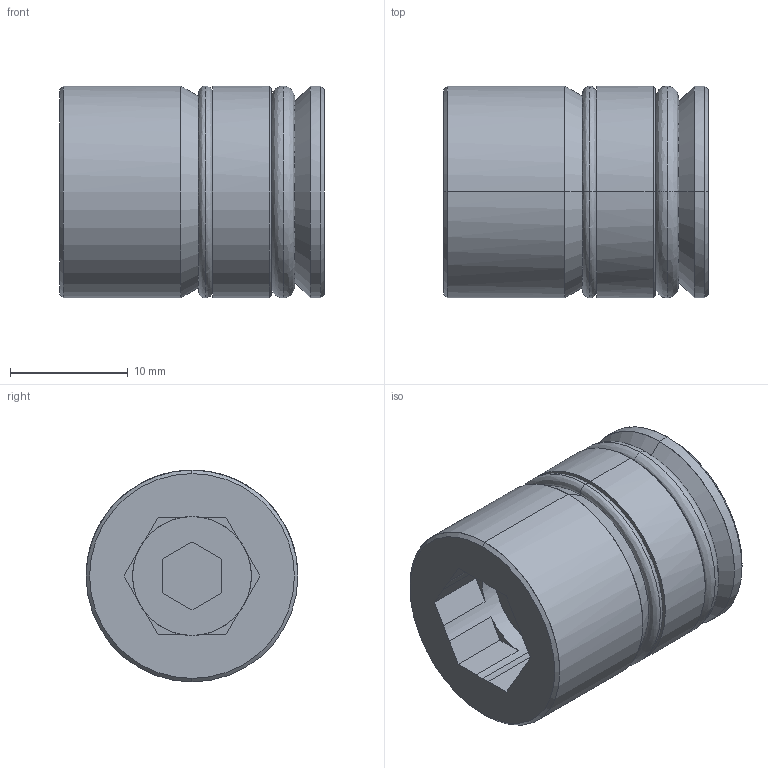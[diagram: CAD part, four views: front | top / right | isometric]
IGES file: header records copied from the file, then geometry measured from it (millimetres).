
Start section: START RECORD GO HERE.
Global section: file name: TRI-18.igs; native system: DASSAULT SYSTEMES CATIA V5 R20 - www.3ds.com; preprocessor: CATIA Version 5 Release 20 ; author: Utente; organization: NB04-ASUS; date: 20210222.201043; units: millimetre
Bounding box: 22.5 x 18 x 18 mm (x, y, z)
Surface area: 2367.5 mm2 (no closed solid volume)
Topology: 0 solids, 0 shells, 56 faces, 320 edges, 320 vertices
Faces by surface type: plane 30, revolution 26
